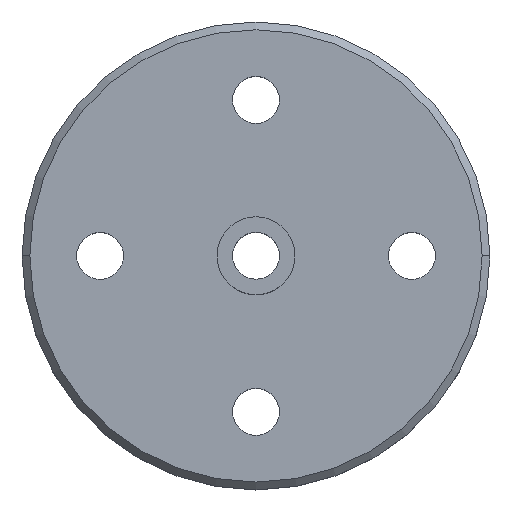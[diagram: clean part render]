
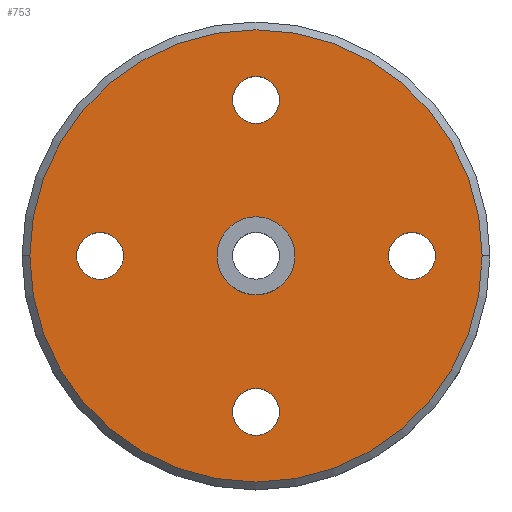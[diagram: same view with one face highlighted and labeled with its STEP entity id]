
A CAD part, top view. The second image highlights one B-rep face of the part: STEP entity #753.
In plain terms, the highlighted planar face has unit normal (0, 0, 1).
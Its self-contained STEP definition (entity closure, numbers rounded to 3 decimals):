
#55=AXIS2_PLACEMENT_3D('Circle Axis2P3D',#53,#54,$) ;
#88=AXIS2_PLACEMENT_3D('Circle Axis2P3D',#86,#87,$) ;
#168=AXIS2_PLACEMENT_3D('Circle Axis2P3D',#166,#167,$) ;
#208=AXIS2_PLACEMENT_3D('Circle Axis2P3D',#206,#207,$) ;
#248=AXIS2_PLACEMENT_3D('Circle Axis2P3D',#246,#247,$) ;
#592=AXIS2_PLACEMENT_3D('Plane Axis2P3D',#589,#590,#591) ;
#596=AXIS2_PLACEMENT_3D('Circle Axis2P3D',#594,#595,$) ;
#605=AXIS2_PLACEMENT_3D('Circle Axis2P3D',#603,#604,$) ;
#612=AXIS2_PLACEMENT_3D('Circle Axis2P3D',#610,#611,$) ;
#619=AXIS2_PLACEMENT_3D('Circle Axis2P3D',#617,#618,$) ;
#630=AXIS2_PLACEMENT_3D('Circle Axis2P3D',#628,#629,$) ;
#637=AXIS2_PLACEMENT_3D('Circle Axis2P3D',#635,#636,$) ;
#644=AXIS2_PLACEMENT_3D('Circle Axis2P3D',#642,#643,$) ;
#655=AXIS2_PLACEMENT_3D('Circle Axis2P3D',#653,#654,$) ;
#662=AXIS2_PLACEMENT_3D('Circle Axis2P3D',#660,#661,$) ;
#669=AXIS2_PLACEMENT_3D('Circle Axis2P3D',#667,#668,$) ;
#680=AXIS2_PLACEMENT_3D('Circle Axis2P3D',#678,#679,$) ;
#687=AXIS2_PLACEMENT_3D('Circle Axis2P3D',#685,#686,$) ;
#694=AXIS2_PLACEMENT_3D('Circle Axis2P3D',#692,#693,$) ;
#705=AXIS2_PLACEMENT_3D('Circle Axis2P3D',#703,#704,$) ;
#712=AXIS2_PLACEMENT_3D('Circle Axis2P3D',#710,#711,$) ;
#719=AXIS2_PLACEMENT_3D('Circle Axis2P3D',#717,#718,$) ;
#730=AXIS2_PLACEMENT_3D('Circle Axis2P3D',#728,#729,$) ;
#737=AXIS2_PLACEMENT_3D('Circle Axis2P3D',#735,#736,$) ;
#744=AXIS2_PLACEMENT_3D('Circle Axis2P3D',#742,#743,$) ;
#50=CARTESIAN_POINT('Vertex',(2.5,0.,5.)) ;
#53=CARTESIAN_POINT('Axis2P3D Location',(0.,0.,5.)) ;
#57=CARTESIAN_POINT('Vertex',(0.,2.5,5.)) ;
#83=CARTESIAN_POINT('Vertex',(-10.,-1.5,5.)) ;
#86=CARTESIAN_POINT('Axis2P3D Location',(-10.,0.,5.)) ;
#90=CARTESIAN_POINT('Vertex',(-8.5,0.,5.)) ;
#163=CARTESIAN_POINT('Vertex',(10.,-1.5,5.)) ;
#166=CARTESIAN_POINT('Axis2P3D Location',(10.,0.,5.)) ;
#170=CARTESIAN_POINT('Vertex',(11.5,0.,5.)) ;
#203=CARTESIAN_POINT('Vertex',(0.,-11.5,5.)) ;
#206=CARTESIAN_POINT('Axis2P3D Location',(0.,-10.,5.)) ;
#210=CARTESIAN_POINT('Vertex',(1.5,-10.,5.)) ;
#243=CARTESIAN_POINT('Vertex',(0.,8.5,5.)) ;
#246=CARTESIAN_POINT('Axis2P3D Location',(0.,10.,5.)) ;
#250=CARTESIAN_POINT('Vertex',(1.5,10.,5.)) ;
#589=CARTESIAN_POINT('Axis2P3D Location',(0.,0.,5.)) ;
#594=CARTESIAN_POINT('Axis2P3D Location',(0.,0.,5.)) ;
#598=CARTESIAN_POINT('Vertex',(-14.5,0.,5.)) ;
#600=CARTESIAN_POINT('Vertex',(0.,-14.5,5.)) ;
#603=CARTESIAN_POINT('Axis2P3D Location',(0.,0.,5.)) ;
#607=CARTESIAN_POINT('Vertex',(14.5,0.,5.)) ;
#610=CARTESIAN_POINT('Axis2P3D Location',(0.,0.,5.)) ;
#614=CARTESIAN_POINT('Vertex',(0.,14.5,5.)) ;
#617=CARTESIAN_POINT('Axis2P3D Location',(0.,0.,5.)) ;
#628=CARTESIAN_POINT('Axis2P3D Location',(0.,0.,5.)) ;
#632=CARTESIAN_POINT('Vertex',(-2.5,0.,5.)) ;
#635=CARTESIAN_POINT('Axis2P3D Location',(0.,0.,5.)) ;
#639=CARTESIAN_POINT('Vertex',(0.,-2.5,5.)) ;
#642=CARTESIAN_POINT('Axis2P3D Location',(0.,0.,5.)) ;
#653=CARTESIAN_POINT('Axis2P3D Location',(-10.,0.,5.)) ;
#657=CARTESIAN_POINT('Vertex',(-11.5,0.,5.)) ;
#660=CARTESIAN_POINT('Axis2P3D Location',(-10.,0.,5.)) ;
#664=CARTESIAN_POINT('Vertex',(-10.,1.5,5.)) ;
#667=CARTESIAN_POINT('Axis2P3D Location',(-10.,0.,5.)) ;
#678=CARTESIAN_POINT('Axis2P3D Location',(10.,0.,5.)) ;
#682=CARTESIAN_POINT('Vertex',(8.5,0.,5.)) ;
#685=CARTESIAN_POINT('Axis2P3D Location',(10.,0.,5.)) ;
#689=CARTESIAN_POINT('Vertex',(10.,1.5,5.)) ;
#692=CARTESIAN_POINT('Axis2P3D Location',(10.,0.,5.)) ;
#703=CARTESIAN_POINT('Axis2P3D Location',(0.,-10.,5.)) ;
#707=CARTESIAN_POINT('Vertex',(-1.5,-10.,5.)) ;
#710=CARTESIAN_POINT('Axis2P3D Location',(0.,-10.,5.)) ;
#714=CARTESIAN_POINT('Vertex',(0.,-8.5,5.)) ;
#717=CARTESIAN_POINT('Axis2P3D Location',(0.,-10.,5.)) ;
#728=CARTESIAN_POINT('Axis2P3D Location',(0.,10.,5.)) ;
#732=CARTESIAN_POINT('Vertex',(-1.5,10.,5.)) ;
#735=CARTESIAN_POINT('Axis2P3D Location',(0.,10.,5.)) ;
#739=CARTESIAN_POINT('Vertex',(0.,11.5,5.)) ;
#742=CARTESIAN_POINT('Axis2P3D Location',(0.,10.,5.)) ;
#54=DIRECTION('Axis2P3D Direction',(0.,0.,1.)) ;
#87=DIRECTION('Axis2P3D Direction',(0.,0.,-1.)) ;
#167=DIRECTION('Axis2P3D Direction',(0.,0.,-1.)) ;
#207=DIRECTION('Axis2P3D Direction',(0.,0.,-1.)) ;
#247=DIRECTION('Axis2P3D Direction',(0.,0.,-1.)) ;
#590=DIRECTION('Axis2P3D Direction',(0.,0.,1.)) ;
#591=DIRECTION('Axis2P3D XDirection',(1.,0.,0.)) ;
#595=DIRECTION('Axis2P3D Direction',(0.,0.,1.)) ;
#604=DIRECTION('Axis2P3D Direction',(0.,0.,1.)) ;
#611=DIRECTION('Axis2P3D Direction',(0.,0.,1.)) ;
#618=DIRECTION('Axis2P3D Direction',(0.,0.,1.)) ;
#629=DIRECTION('Axis2P3D Direction',(0.,0.,1.)) ;
#636=DIRECTION('Axis2P3D Direction',(0.,0.,1.)) ;
#643=DIRECTION('Axis2P3D Direction',(0.,0.,1.)) ;
#654=DIRECTION('Axis2P3D Direction',(0.,0.,1.)) ;
#661=DIRECTION('Axis2P3D Direction',(0.,0.,1.)) ;
#668=DIRECTION('Axis2P3D Direction',(0.,0.,1.)) ;
#679=DIRECTION('Axis2P3D Direction',(0.,0.,1.)) ;
#686=DIRECTION('Axis2P3D Direction',(0.,0.,1.)) ;
#693=DIRECTION('Axis2P3D Direction',(0.,0.,1.)) ;
#704=DIRECTION('Axis2P3D Direction',(0.,0.,1.)) ;
#711=DIRECTION('Axis2P3D Direction',(0.,0.,1.)) ;
#718=DIRECTION('Axis2P3D Direction',(0.,0.,1.)) ;
#729=DIRECTION('Axis2P3D Direction',(0.,0.,1.)) ;
#736=DIRECTION('Axis2P3D Direction',(0.,0.,1.)) ;
#743=DIRECTION('Axis2P3D Direction',(0.,0.,1.)) ;
#623=ORIENTED_EDGE('',*,*,#602,.T.) ;
#624=ORIENTED_EDGE('',*,*,#609,.T.) ;
#625=ORIENTED_EDGE('',*,*,#616,.T.) ;
#626=ORIENTED_EDGE('',*,*,#621,.T.) ;
#648=ORIENTED_EDGE('',*,*,#634,.F.) ;
#649=ORIENTED_EDGE('',*,*,#59,.F.) ;
#650=ORIENTED_EDGE('',*,*,#641,.F.) ;
#651=ORIENTED_EDGE('',*,*,#646,.F.) ;
#673=ORIENTED_EDGE('',*,*,#92,.T.) ;
#674=ORIENTED_EDGE('',*,*,#659,.F.) ;
#675=ORIENTED_EDGE('',*,*,#666,.T.) ;
#676=ORIENTED_EDGE('',*,*,#671,.T.) ;
#698=ORIENTED_EDGE('',*,*,#172,.T.) ;
#699=ORIENTED_EDGE('',*,*,#684,.F.) ;
#700=ORIENTED_EDGE('',*,*,#691,.T.) ;
#701=ORIENTED_EDGE('',*,*,#696,.T.) ;
#723=ORIENTED_EDGE('',*,*,#212,.T.) ;
#724=ORIENTED_EDGE('',*,*,#709,.F.) ;
#725=ORIENTED_EDGE('',*,*,#716,.T.) ;
#726=ORIENTED_EDGE('',*,*,#721,.T.) ;
#748=ORIENTED_EDGE('',*,*,#252,.T.) ;
#749=ORIENTED_EDGE('',*,*,#734,.F.) ;
#750=ORIENTED_EDGE('',*,*,#741,.T.) ;
#751=ORIENTED_EDGE('',*,*,#746,.T.) ;
#652=FACE_BOUND('',#647,.T.) ;
#677=FACE_BOUND('',#672,.T.) ;
#702=FACE_BOUND('',#697,.T.) ;
#727=FACE_BOUND('',#722,.T.) ;
#752=FACE_BOUND('',#747,.T.) ;
#753=ADVANCED_FACE('\X2\96F64EF651E04F554F53\X0\',(#627,#652,#677,#702,#727,#752),#593,.T.) ;
#56=CIRCLE('generated circle',#55,2.5) ;
#89=CIRCLE('generated circle',#88,1.5) ;
#169=CIRCLE('generated circle',#168,1.5) ;
#209=CIRCLE('generated circle',#208,1.5) ;
#249=CIRCLE('generated circle',#248,1.5) ;
#597=CIRCLE('generated circle',#596,14.5) ;
#606=CIRCLE('generated circle',#605,14.5) ;
#613=CIRCLE('generated circle',#612,14.5) ;
#620=CIRCLE('generated circle',#619,14.5) ;
#631=CIRCLE('generated circle',#630,2.5) ;
#638=CIRCLE('generated circle',#637,2.5) ;
#645=CIRCLE('generated circle',#644,2.5) ;
#656=CIRCLE('generated circle',#655,1.5) ;
#663=CIRCLE('generated circle',#662,1.5) ;
#670=CIRCLE('generated circle',#669,1.5) ;
#681=CIRCLE('generated circle',#680,1.5) ;
#688=CIRCLE('generated circle',#687,1.5) ;
#695=CIRCLE('generated circle',#694,1.5) ;
#706=CIRCLE('generated circle',#705,1.5) ;
#713=CIRCLE('generated circle',#712,1.5) ;
#720=CIRCLE('generated circle',#719,1.5) ;
#731=CIRCLE('generated circle',#730,1.5) ;
#738=CIRCLE('generated circle',#737,1.5) ;
#745=CIRCLE('generated circle',#744,1.5) ;
#59=EDGE_CURVE('',#51,#58,#56,.T.) ;
#92=EDGE_CURVE('',#91,#84,#89,.T.) ;
#172=EDGE_CURVE('',#171,#164,#169,.T.) ;
#212=EDGE_CURVE('',#211,#204,#209,.T.) ;
#252=EDGE_CURVE('',#251,#244,#249,.T.) ;
#602=EDGE_CURVE('',#599,#601,#597,.T.) ;
#609=EDGE_CURVE('',#601,#608,#606,.T.) ;
#616=EDGE_CURVE('',#608,#615,#613,.T.) ;
#621=EDGE_CURVE('',#615,#599,#620,.T.) ;
#634=EDGE_CURVE('',#58,#633,#631,.T.) ;
#641=EDGE_CURVE('',#640,#51,#638,.T.) ;
#646=EDGE_CURVE('',#633,#640,#645,.T.) ;
#659=EDGE_CURVE('',#658,#84,#656,.T.) ;
#666=EDGE_CURVE('',#658,#665,#663,.F.) ;
#671=EDGE_CURVE('',#665,#91,#670,.F.) ;
#684=EDGE_CURVE('',#683,#164,#681,.T.) ;
#691=EDGE_CURVE('',#683,#690,#688,.F.) ;
#696=EDGE_CURVE('',#690,#171,#695,.F.) ;
#709=EDGE_CURVE('',#708,#204,#706,.T.) ;
#716=EDGE_CURVE('',#708,#715,#713,.F.) ;
#721=EDGE_CURVE('',#715,#211,#720,.F.) ;
#734=EDGE_CURVE('',#733,#244,#731,.T.) ;
#741=EDGE_CURVE('',#733,#740,#738,.F.) ;
#746=EDGE_CURVE('',#740,#251,#745,.F.) ;
#622=EDGE_LOOP('',(#623,#624,#625,#626)) ;
#647=EDGE_LOOP('',(#648,#649,#650,#651)) ;
#672=EDGE_LOOP('',(#673,#674,#675,#676)) ;
#697=EDGE_LOOP('',(#698,#699,#700,#701)) ;
#722=EDGE_LOOP('',(#723,#724,#725,#726)) ;
#747=EDGE_LOOP('',(#748,#749,#750,#751)) ;
#627=FACE_OUTER_BOUND('',#622,.T.) ;
#593=PLANE('',#592) ;
#51=VERTEX_POINT('',#50) ;
#58=VERTEX_POINT('',#57) ;
#84=VERTEX_POINT('',#83) ;
#91=VERTEX_POINT('',#90) ;
#164=VERTEX_POINT('',#163) ;
#171=VERTEX_POINT('',#170) ;
#204=VERTEX_POINT('',#203) ;
#211=VERTEX_POINT('',#210) ;
#244=VERTEX_POINT('',#243) ;
#251=VERTEX_POINT('',#250) ;
#599=VERTEX_POINT('',#598) ;
#601=VERTEX_POINT('',#600) ;
#608=VERTEX_POINT('',#607) ;
#615=VERTEX_POINT('',#614) ;
#633=VERTEX_POINT('',#632) ;
#640=VERTEX_POINT('',#639) ;
#658=VERTEX_POINT('',#657) ;
#665=VERTEX_POINT('',#664) ;
#683=VERTEX_POINT('',#682) ;
#690=VERTEX_POINT('',#689) ;
#708=VERTEX_POINT('',#707) ;
#715=VERTEX_POINT('',#714) ;
#733=VERTEX_POINT('',#732) ;
#740=VERTEX_POINT('',#739) ;
